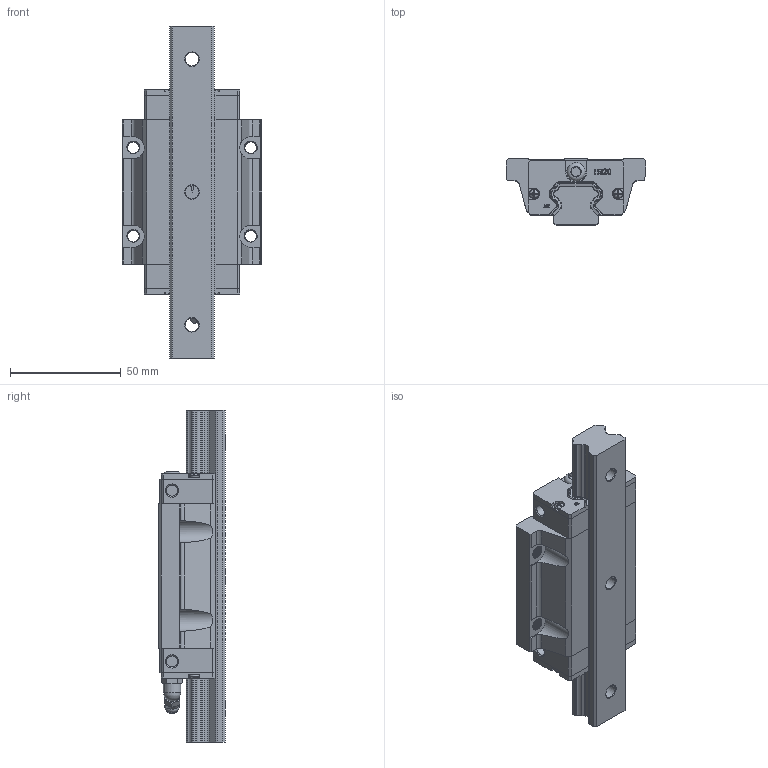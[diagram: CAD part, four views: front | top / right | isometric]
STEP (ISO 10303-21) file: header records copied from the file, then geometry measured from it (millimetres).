
FILE_DESCRIPTION(/* description */ (''),/* implementation_level */ '2;1');
FILE_NAME(/* name */ 'HBW20HC.stp',/* time_stamp */ '2024-09-29T20:53:40+08:00',/* author */ (''),/* organization */ (''),/* preprocessor_version */ 'ST-DEVELOPER v16.7',/* originating_system */ 'SIEMENS PLM Software NX 12.0',/* authorisation */ '');
FILE_SCHEMA (('AUTOMOTIVE_DESIGN { 1 0 10303 214 3 1 1 1 }'));
Products named in the file (3): HBW20HC; HBR20; HBW20HC_stp
Assembly tree (2 placements, depth 2):
  HBW20HC_stp
    HBR20
    HBW20HC
Bounding box: 63 x 30 x 150 mm (x, y, z)
Volume: 137093.5 mm3; surface area: 38528 mm2
Topology: 2 solids, 9 shells, 1092 faces, 2966 edges, 1936 vertices
Faces by surface type: plane 598, cylinder 245, extrusion 117, cone 72, bspline 40, torus 15, sphere 5
Full cylindrical faces by diameter (mm): 2.8 x4, 3 x1, 3.7 x1, 5 x4, 6.1 x2, 7.8 x1, 8.002 x2, 8.3 x1
Entity records: 83209 total; most frequent: CARTESIAN_POINT 49888, ORIENTED_EDGE 5788, DIRECTION 4901, EDGE_CURVE 2894, VERTEX_POINT 1915, VECTOR 1767, LINE 1650, AXIS2_PLACEMENT_3D 1567
